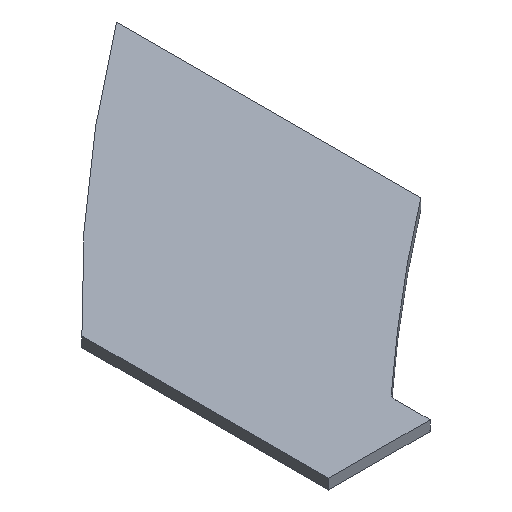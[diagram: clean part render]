
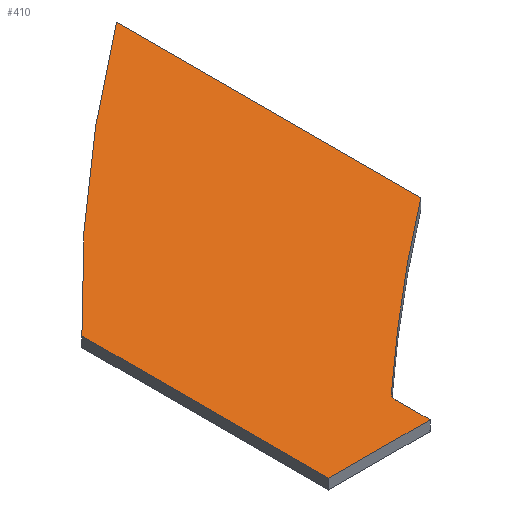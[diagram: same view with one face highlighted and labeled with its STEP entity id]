
A CAD part, isometric view. The second image highlights one B-rep face of the part: STEP entity #410.
In plain terms, the highlighted planar face has unit normal (0, 0, 1).
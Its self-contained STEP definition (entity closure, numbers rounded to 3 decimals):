
#282=CIRCLE('',#388,2429.72);
#283=CIRCLE('',#391,2580.282);
#285=CIRCLE('',#394,10.);
#306=ORIENTED_EDGE('',*,*,#349,.T.);
#307=ORIENTED_EDGE('',*,*,#359,.T.);
#308=ORIENTED_EDGE('',*,*,#360,.F.);
#309=ORIENTED_EDGE('',*,*,#361,.T.);
#310=ORIENTED_EDGE('',*,*,#356,.T.);
#311=ORIENTED_EDGE('',*,*,#355,.T.);
#312=ORIENTED_EDGE('',*,*,#352,.F.);
#333=VERTEX_POINT('',#513);
#335=VERTEX_POINT('',#517);
#337=VERTEX_POINT('',#522);
#339=VERTEX_POINT('',#528);
#340=VERTEX_POINT('',#533);
#342=VERTEX_POINT('',#539);
#343=VERTEX_POINT('',#541);
#349=EDGE_CURVE('',#333,#335,#565,.T.);
#352=EDGE_CURVE('',#333,#337,#282,.T.);
#355=EDGE_CURVE('',#339,#337,#569,.T.);
#356=EDGE_CURVE('',#340,#339,#283,.T.);
#359=EDGE_CURVE('',#335,#342,#571,.T.);
#360=EDGE_CURVE('',#343,#342,#572,.T.);
#361=EDGE_CURVE('',#343,#340,#285,.T.);
#371=EDGE_LOOP('',(#306,#307,#308,#309,#310,#311,#312));
#380=FACE_BOUND('',#371,.T.);
#388=AXIS2_PLACEMENT_3D('',#525,#434,#435);
#391=AXIS2_PLACEMENT_3D('',#534,#443,#444);
#393=AXIS2_PLACEMENT_3D('',#538,#448,#449);
#394=AXIS2_PLACEMENT_3D('',#543,#452,#453);
#402=PLANE('',#393);
#410=ADVANCED_FACE('',(#380),#402,.T.);
#428=DIRECTION('',(0.,-243.239,0.));
#434=DIRECTION('',(0.,0.,-1.));
#435=DIRECTION('',(-537.711,2369.474,0.));
#440=DIRECTION('',(0.,299.944,0.));
#443=DIRECTION('',(0.,0.,-1.));
#444=DIRECTION('',(-862.036,2432.026,0.));
#448=DIRECTION('',(0.,0.,1.));
#449=DIRECTION('',(0.,-1.,0.));
#450=DIRECTION('',(100.,0.,0.));
#451=DIRECTION('',(0.,-34.095,0.));
#452=DIRECTION('',(0.,0.,-1.));
#453=DIRECTION('',(10.,0.,0.));
#478=VECTOR('',#428,1.);
#482=VECTOR('',#440,1.);
#484=VECTOR('',#450,1.);
#485=VECTOR('',#451,1.);
#513=CARTESIAN_POINT('',(-940.871,-534.261,10.));
#517=CARTESIAN_POINT('',(-940.871,-777.5,10.));
#519=CARTESIAN_POINT('',(-940.871,-534.261,10.));
#522=CARTESIAN_POINT('',(-655.871,-283.467,10.));
#525=CARTESIAN_POINT('',(801.839,-2227.334,10.));
#528=CARTESIAN_POINT('',(-655.871,-583.411,10.));
#531=CARTESIAN_POINT('',(-655.871,-583.411,10.));
#533=CARTESIAN_POINT('',(-837.647,-736.051,10.));
#534=CARTESIAN_POINT('',(910.769,-2633.654,10.));
#538=CARTESIAN_POINT('',(0.,0.,10.));
#539=CARTESIAN_POINT('',(-840.871,-777.5,10.));
#540=CARTESIAN_POINT('',(-940.871,-777.5,10.));
#541=CARTESIAN_POINT('',(-840.871,-743.405,10.));
#542=CARTESIAN_POINT('',(-840.871,-743.405,10.));
#543=CARTESIAN_POINT('',(-830.871,-743.405,10.));
#565=LINE('',#519,#478);
#569=LINE('',#531,#482);
#571=LINE('',#540,#484);
#572=LINE('',#542,#485);
